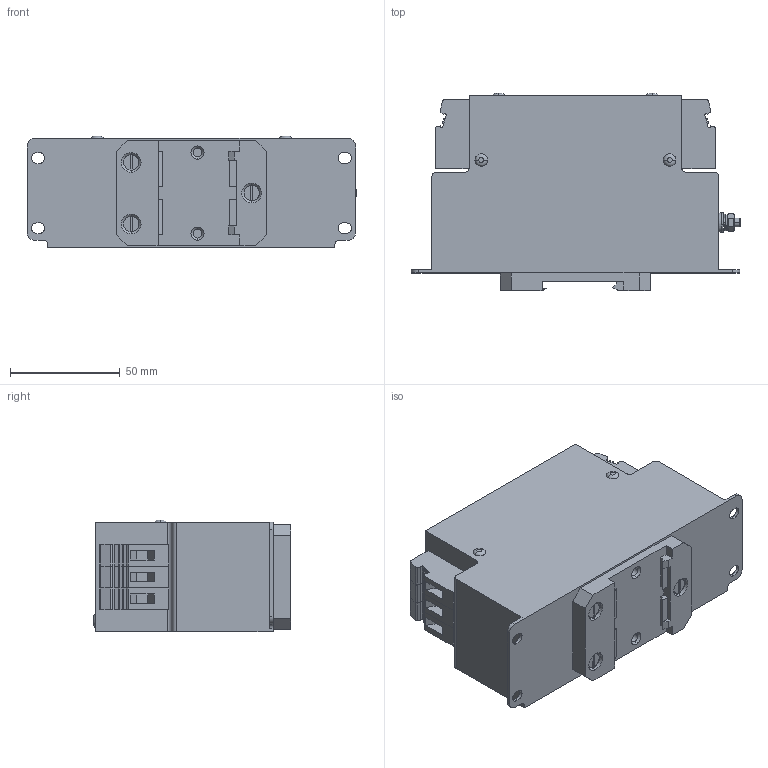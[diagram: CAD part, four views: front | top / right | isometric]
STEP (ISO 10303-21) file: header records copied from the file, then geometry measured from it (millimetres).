
FILE_DESCRIPTION (( 'STEP AP214' ), '1' );
FILE_NAME ('NF-10-BFG-CD(-LL).STEP', '2023-08-25T08:24:40', ( '' ), ( '' ), 'SwSTEP 2.0', 'SolidWorks 2021', '' );
FILE_SCHEMA (( 'AUTOMOTIVE_DESIGN' ));
Length unit declared in the file: millimetre
Products named in the file (7): Unterlegscheibe M4-Ø9; 0711027_VDFK6_SELECT; Mutter M4; Senkkopfschraube M4x8; NF-10-BFG-CD(-LL); NF-10-BFG_BFG-CD; Federring M4
Assembly tree (14 placements, depth 2):
  NF-10-BFG-CD(-LL)
    NF-10-BFG_BFG-CD
    0711027_VDFK6_SELECT  x6
    Unterlegscheibe M4-Ø9  x2
    Mutter M4
    Federring M4
    Senkkopfschraube M4x8  x3
Bounding box: 150.5 x 90 x 51 mm (x, y, z)
Volume: 519175.3 mm3; surface area: 59513.3 mm2
Topology: 14 solids, 14 shells, 594 faces, 1484 edges, 963 vertices
Faces by surface type: plane 349, cylinder 197, cone 18, torus 12, bspline 10, sphere 8
Entity records: 10457 total; most frequent: CARTESIAN_POINT 2738, DIRECTION 1353, ORIENTED_EDGE 1268, EDGE_CURVE 634, AXIS2_PLACEMENT_3D 474, VECTOR 405, LINE 405, VERTEX_POINT 401
